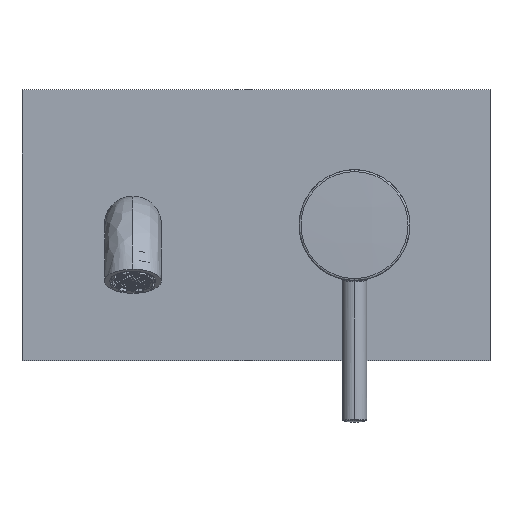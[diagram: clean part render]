
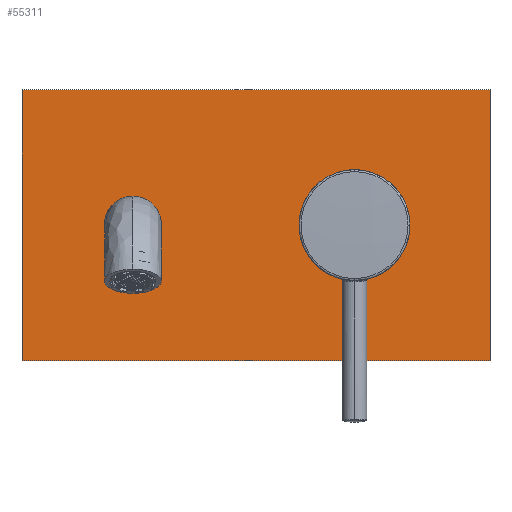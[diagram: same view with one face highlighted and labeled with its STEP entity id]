
A CAD part, top view. The second image highlights one B-rep face of the part: STEP entity #55311.
In plain terms, the highlighted planar face has unit normal (0, 0, 1).
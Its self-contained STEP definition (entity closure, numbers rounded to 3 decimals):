
#161 = CARTESIAN_POINT ( 'NONE',  ( 0., 0., 77.559 ) ) ;
#1483 = ORIENTED_EDGE ( 'NONE', *, *, #110140, .F. ) ;
#1609 = DIRECTION ( 'NONE',  ( 0., -1., 0. ) ) ;
#4551 = VECTOR ( 'NONE', #202851, 1000. ) ;
#5258 = EDGE_LOOP ( 'NONE', ( #165417, #96578 ) ) ;
#5513 = CIRCLE ( 'NONE', #101938, 11.7 ) ;
#6881 = CARTESIAN_POINT ( 'NONE',  ( -135., 55., 77.559 ) ) ;
#9322 = CARTESIAN_POINT ( 'NONE',  ( 55., 55., 77.559 ) ) ;
#10792 = FACE_OUTER_BOUND ( 'NONE', #58958, .T. ) ;
#14418 = LINE ( 'NONE', #92542, #63034 ) ;
#14681 = EDGE_CURVE ( 'NONE', #28264, #156236, #180846, .T. ) ;
#19885 = EDGE_CURVE ( 'NONE', #180827, #28264, #202937, .T. ) ;
#21909 = CARTESIAN_POINT ( 'NONE',  ( 55., -55., 77.559 ) ) ;
#25349 = DIRECTION ( 'NONE',  ( 1., 0., 0. ) ) ;
#26604 = DIRECTION ( 'NONE',  ( 0., 0., -1. ) ) ;
#28264 = VERTEX_POINT ( 'NONE', #6881 ) ;
#28275 = DIRECTION ( 'NONE',  ( 0., -1., 0. ) ) ;
#29153 = DIRECTION ( 'NONE',  ( 0., 0., 1. ) ) ;
#30226 = CARTESIAN_POINT ( 'NONE',  ( 0., 0., 77.559 ) ) ;
#30362 = AXIS2_PLACEMENT_3D ( 'NONE', #74345, #168204, #43079 ) ;
#32891 = AXIS2_PLACEMENT_3D ( 'NONE', #92714, #143808, #91672 ) ;
#34465 = LINE ( 'NONE', #97933, #65857 ) ;
#37098 = CARTESIAN_POINT ( 'NONE',  ( 22.491, 0.626, 77.559 ) ) ;
#40075 = CARTESIAN_POINT ( 'NONE',  ( -20.991, 0.626, 77.559 ) ) ;
#40214 = ORIENTED_EDGE ( 'NONE', *, *, #122563, .F. ) ;
#41913 = CIRCLE ( 'NONE', #55298, 22.5 ) ;
#43079 = DIRECTION ( 'NONE',  ( 1., 0., 0. ) ) ;
#44487 = CARTESIAN_POINT ( 'NONE',  ( 0., 0.626, 77.559 ) ) ;
#46041 = DIRECTION ( 'NONE',  ( 0., 0., 1. ) ) ;
#47064 = DIRECTION ( 'NONE',  ( 0., 0., -1. ) ) ;
#47325 = VERTEX_POINT ( 'NONE', #159877 ) ;
#47477 = VERTEX_POINT ( 'NONE', #177304 ) ;
#49732 = VERTEX_POINT ( 'NONE', #187636 ) ;
#52953 = ORIENTED_EDGE ( 'NONE', *, *, #146983, .F. ) ;
#53805 = EDGE_CURVE ( 'NONE', #192613, #47325, #149406, .T. ) ;
#55298 = AXIS2_PLACEMENT_3D ( 'NONE', #205896, #190307, #1609 ) ;
#55311 = ADVANCED_FACE ( 'NONE', ( #106602, #10792, #121232, #103491 ), #58673, .T. ) ;
#56408 = EDGE_CURVE ( 'NONE', #134300, #180827, #73088, .T. ) ;
#58673 = PLANE ( 'NONE',  #30362 ) ;
#58958 = EDGE_LOOP ( 'NONE', ( #203187, #185615, #126612, #169901 ) ) ;
#61144 = EDGE_CURVE ( 'NONE', #104452, #47477, #34465, .T. ) ;
#61868 = CIRCLE ( 'NONE', #78506, 0.056 ) ;
#63034 = VECTOR ( 'NONE', #189513, 1000. ) ;
#65748 = DIRECTION ( 'NONE',  ( 0., -1., 0. ) ) ;
#65821 = VERTEX_POINT ( 'NONE', #40075 ) ;
#65857 = VECTOR ( 'NONE', #94520, 1000. ) ;
#68258 = EDGE_LOOP ( 'NONE', ( #52953, #40214 ) ) ;
#70837 = CARTESIAN_POINT ( 'NONE',  ( -22.491, 0.626, 77.559 ) ) ;
#71775 = EDGE_CURVE ( 'NONE', #49732, #104452, #41913, .T. ) ;
#71933 = AXIS2_PLACEMENT_3D ( 'NONE', #176326, #47064, #65748 ) ;
#73088 = LINE ( 'NONE', #153413, #113882 ) ;
#73130 = AXIS2_PLACEMENT_3D ( 'NONE', #116333, #26604, #135016 ) ;
#74126 = DIRECTION ( 'NONE',  ( 0., 1., 0. ) ) ;
#74345 = CARTESIAN_POINT ( 'NONE',  ( -46.575, -31.04, 77.559 ) ) ;
#76711 = EDGE_CURVE ( 'NONE', #123815, #65821, #205069, .T. ) ;
#78506 = AXIS2_PLACEMENT_3D ( 'NONE', #88577, #90641, #120915 ) ;
#84917 = VECTOR ( 'NONE', #187347, 1000. ) ;
#85917 = CARTESIAN_POINT ( 'NONE',  ( -135., -31.04, 77.559 ) ) ;
#87312 = EDGE_CURVE ( 'NONE', #47477, #123815, #163121, .T. ) ;
#88555 = CARTESIAN_POINT ( 'NONE',  ( -135., -55., 77.559 ) ) ;
#88577 = CARTESIAN_POINT ( 'NONE',  ( 0., 0., 77.559 ) ) ;
#90641 = DIRECTION ( 'NONE',  ( 0., 0., 1. ) ) ;
#91672 = DIRECTION ( 'NONE',  ( 1., 0., 0. ) ) ;
#92542 = CARTESIAN_POINT ( 'NONE',  ( -46.575, -55., 77.559 ) ) ;
#92663 = DIRECTION ( 'NONE',  ( 1., 0., 0. ) ) ;
#92714 = CARTESIAN_POINT ( 'NONE',  ( -90., 0., 77.559 ) ) ;
#94520 = DIRECTION ( 'NONE',  ( -1., 0., 0. ) ) ;
#95003 = VERTEX_POINT ( 'NONE', #121661 ) ;
#96578 = ORIENTED_EDGE ( 'NONE', *, *, #190814, .T. ) ;
#97933 = CARTESIAN_POINT ( 'NONE',  ( 0., 0.626, 77.559 ) ) ;
#101486 = CARTESIAN_POINT ( 'NONE',  ( -78.3, 0., 77.559 ) ) ;
#101938 = AXIS2_PLACEMENT_3D ( 'NONE', #104525, #165150, #25349 ) ;
#103491 = FACE_BOUND ( 'NONE', #161128, .T. ) ;
#104452 = VERTEX_POINT ( 'NONE', #37098 ) ;
#104525 = CARTESIAN_POINT ( 'NONE',  ( -90., 0., 77.559 ) ) ;
#106602 = FACE_BOUND ( 'NONE', #68258, .T. ) ;
#110140 = EDGE_CURVE ( 'NONE', #199929, #49732, #203667, .T. ) ;
#111958 = ORIENTED_EDGE ( 'NONE', *, *, #76711, .F. ) ;
#113882 = VECTOR ( 'NONE', #74126, 1000. ) ;
#116333 = CARTESIAN_POINT ( 'NONE',  ( 0., 0., 77.559 ) ) ;
#117274 = ORIENTED_EDGE ( 'NONE', *, *, #148472, .F. ) ;
#120915 = DIRECTION ( 'NONE',  ( 1., 0., 0. ) ) ;
#121232 = FACE_BOUND ( 'NONE', #5258, .T. ) ;
#121661 = CARTESIAN_POINT ( 'NONE',  ( 0., 0.056, 77.559 ) ) ;
#122563 = EDGE_CURVE ( 'NONE', #95003, #189515, #61868, .T. ) ;
#123720 = CARTESIAN_POINT ( 'NONE',  ( -46.575, 55., 77.559 ) ) ;
#123815 = VERTEX_POINT ( 'NONE', #179991 ) ;
#125218 = DIRECTION ( 'NONE',  ( 0., -1., 0. ) ) ;
#126612 = ORIENTED_EDGE ( 'NONE', *, *, #14681, .T. ) ;
#134300 = VERTEX_POINT ( 'NONE', #21909 ) ;
#135016 = DIRECTION ( 'NONE',  ( 0., -1., 0. ) ) ;
#138932 = VECTOR ( 'NONE', #28275, 1000. ) ;
#140356 = LINE ( 'NONE', #44487, #4551 ) ;
#143808 = DIRECTION ( 'NONE',  ( 0., 0., -1. ) ) ;
#146983 = EDGE_CURVE ( 'NONE', #189515, #95003, #173824, .T. ) ;
#148472 = EDGE_CURVE ( 'NONE', #65821, #199929, #140356, .T. ) ;
#149406 = CIRCLE ( 'NONE', #32891, 11.7 ) ;
#153413 = CARTESIAN_POINT ( 'NONE',  ( 55., -31.04, 77.559 ) ) ;
#155514 = ORIENTED_EDGE ( 'NONE', *, *, #71775, .F. ) ;
#156236 = VERTEX_POINT ( 'NONE', #88555 ) ;
#159877 = CARTESIAN_POINT ( 'NONE',  ( -101.7, 0., 77.559 ) ) ;
#161128 = EDGE_LOOP ( 'NONE', ( #1483, #117274, #111958, #184266, #197880, #155514 ) ) ;
#163121 = CIRCLE ( 'NONE', #73130, 21. ) ;
#165150 = DIRECTION ( 'NONE',  ( 0., 0., -1. ) ) ;
#165417 = ORIENTED_EDGE ( 'NONE', *, *, #53805, .T. ) ;
#168204 = DIRECTION ( 'NONE',  ( 0., 0., 1. ) ) ;
#169901 = ORIENTED_EDGE ( 'NONE', *, *, #194125, .T. ) ;
#173824 = CIRCLE ( 'NONE', #200357, 0.056 ) ;
#173870 = AXIS2_PLACEMENT_3D ( 'NONE', #161, #46041, #125218 ) ;
#176326 = CARTESIAN_POINT ( 'NONE',  ( 0., 0., 77.559 ) ) ;
#177304 = CARTESIAN_POINT ( 'NONE',  ( 20.991, 0.626, 77.559 ) ) ;
#179991 = CARTESIAN_POINT ( 'NONE',  ( 0., -21., 77.559 ) ) ;
#180827 = VERTEX_POINT ( 'NONE', #9322 ) ;
#180846 = LINE ( 'NONE', #85917, #138932 ) ;
#184266 = ORIENTED_EDGE ( 'NONE', *, *, #87312, .F. ) ;
#185615 = ORIENTED_EDGE ( 'NONE', *, *, #19885, .T. ) ;
#187347 = DIRECTION ( 'NONE',  ( -1., 0., 0. ) ) ;
#187636 = CARTESIAN_POINT ( 'NONE',  ( 0., -22.5, 77.559 ) ) ;
#189513 = DIRECTION ( 'NONE',  ( 1., 0., 0. ) ) ;
#189515 = VERTEX_POINT ( 'NONE', #201334 ) ;
#190307 = DIRECTION ( 'NONE',  ( 0., 0., 1. ) ) ;
#190814 = EDGE_CURVE ( 'NONE', #47325, #192613, #5513, .T. ) ;
#192613 = VERTEX_POINT ( 'NONE', #101486 ) ;
#194125 = EDGE_CURVE ( 'NONE', #156236, #134300, #14418, .T. ) ;
#197880 = ORIENTED_EDGE ( 'NONE', *, *, #61144, .F. ) ;
#199929 = VERTEX_POINT ( 'NONE', #70837 ) ;
#200357 = AXIS2_PLACEMENT_3D ( 'NONE', #30226, #29153, #92663 ) ;
#201334 = CARTESIAN_POINT ( 'NONE',  ( 0., -0.056, 77.559 ) ) ;
#202851 = DIRECTION ( 'NONE',  ( -1., 0., 0. ) ) ;
#202937 = LINE ( 'NONE', #123720, #84917 ) ;
#203187 = ORIENTED_EDGE ( 'NONE', *, *, #56408, .T. ) ;
#203667 = CIRCLE ( 'NONE', #173870, 22.5 ) ;
#205069 = CIRCLE ( 'NONE', #71933, 21. ) ;
#205896 = CARTESIAN_POINT ( 'NONE',  ( 0., 0., 77.559 ) ) ;
